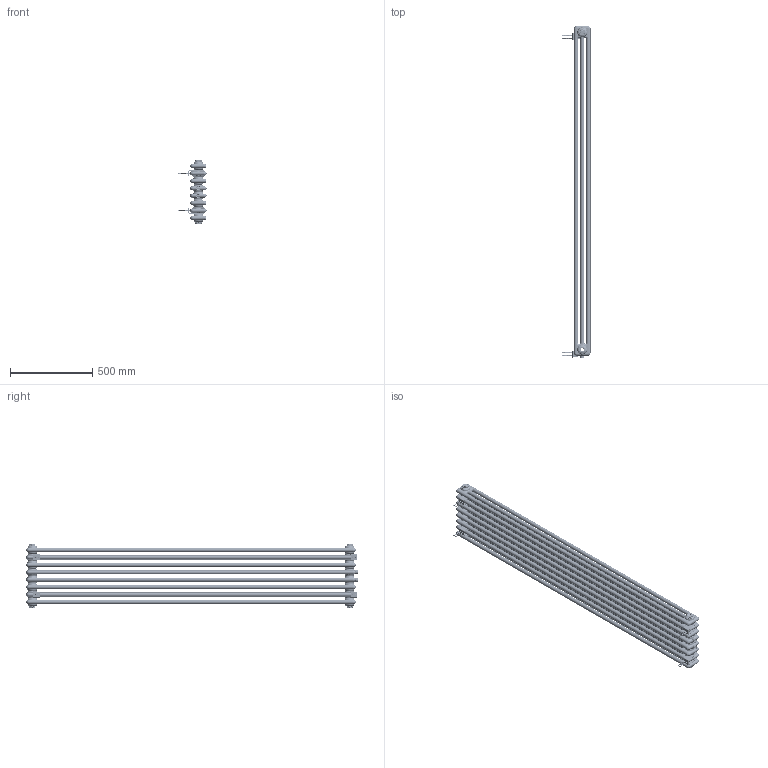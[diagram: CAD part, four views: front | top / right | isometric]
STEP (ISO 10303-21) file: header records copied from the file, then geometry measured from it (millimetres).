
FILE_DESCRIPTION(/* description */ (''),/* implementation_level */ '2;1');
FILE_NAME(/* name */ 'CL03 2000x380',/* time_stamp */ '2023-09-09T16:51:57+08:00',/* author */ (''),/* organization */ (''),/* preprocessor_version */ 'ST-DEVELOPER v9',/* originating_system */ 'UGS - NX 4.0',/* authorisation */ '');
FILE_SCHEMA (('CONFIG_CONTROL_DESIGN'));
Products named in the file (1): AdmiF21Fp0c7
Bounding box: 176.1 x 2013 x 394 mm (x, y, z)
Volume: 4475577 mm3; surface area: 7337504.3 mm2
Topology: 37 solids, 37 shells, 3675 faces, 8905 edges, 5309 vertices
Faces by surface type: bspline 1075, cylinder 1049, plane 720, torus 468, cone 363
Full cylindrical faces by diameter (mm): 25 x2
Entity records: 224410 total; most frequent: CARTESIAN_POINT 147916, ORIENTED_EDGE 17778, DIRECTION 13553, EDGE_CURVE 8889, AXIS2_PLACEMENT_3D 5599, VERTEX_POINT 5311, EDGE_LOOP 3852, ADVANCED_FACE 3675
